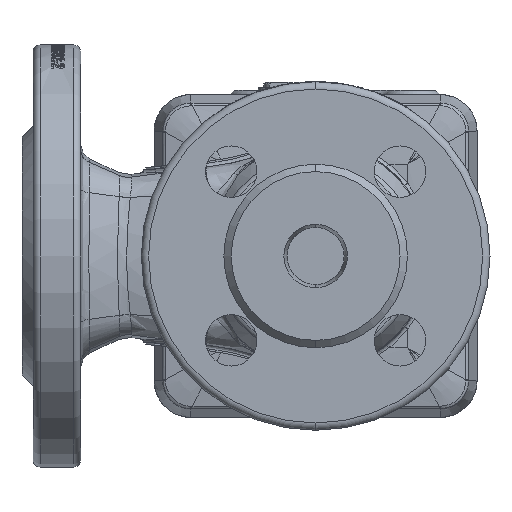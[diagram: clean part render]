
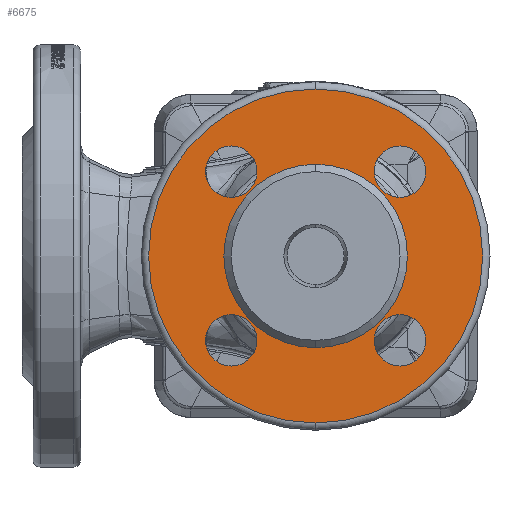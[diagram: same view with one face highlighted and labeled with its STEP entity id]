
A CAD part, front view. The second image highlights one B-rep face of the part: STEP entity #6675.
In plain terms, the highlighted planar face has unit normal (0, -1, 0).
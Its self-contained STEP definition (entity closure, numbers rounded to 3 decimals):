
#1206 = AXIS2_PLACEMENT_3D ( 'NONE', #132358, #104568, #144733 ) ;
#1294 = DIRECTION ( 'NONE',  ( 0., 1., 0. ) ) ;
#1332 = DIRECTION ( 'NONE',  ( 0., -1., 0. ) ) ;
#5045 = CARTESIAN_POINT ( 'NONE',  ( -22.981, -88., -29.981 ) ) ;
#5450 = ORIENTED_EDGE ( 'NONE', *, *, #137319, .F. ) ;
#6382 = AXIS2_PLACEMENT_3D ( 'NONE', #33477, #113973, #87328 ) ;
#6675 = ADVANCED_FACE ( 'NONE', ( #75595, #156120, #35444, #145577, #92635, #139127 ), #129171, .T. ) ;
#7854 = CIRCLE ( 'NONE', #53896, 7. ) ;
#8524 = EDGE_LOOP ( 'NONE', ( #141320, #78700 ) ) ;
#9649 = CARTESIAN_POINT ( 'NONE',  ( 0., -88., 45.5 ) ) ;
#14560 = VERTEX_POINT ( 'NONE', #66139 ) ;
#20714 = CARTESIAN_POINT ( 'NONE',  ( -22.981, -88., 15.981 ) ) ;
#20806 = AXIS2_PLACEMENT_3D ( 'NONE', #102860, #116463, #130056 ) ;
#21139 = AXIS2_PLACEMENT_3D ( 'NONE', #174854, #134635, #52398 ) ;
#21155 = AXIS2_PLACEMENT_3D ( 'NONE', #82396, #1294, #96065 ) ;
#21321 = ORIENTED_EDGE ( 'NONE', *, *, #67745, .F. ) ;
#22969 = ORIENTED_EDGE ( 'NONE', *, *, #44808, .F. ) ;
#25202 = AXIS2_PLACEMENT_3D ( 'NONE', #42004, #109516, #53295 ) ;
#26083 = ORIENTED_EDGE ( 'NONE', *, *, #104723, .F. ) ;
#32776 = ORIENTED_EDGE ( 'NONE', *, *, #152861, .F. ) ;
#33477 = CARTESIAN_POINT ( 'NONE',  ( 22.981, -88., -22.981 ) ) ;
#34671 = VERTEX_POINT ( 'NONE', #9649 ) ;
#35444 = FACE_BOUND ( 'NONE', #47756, .T. ) ;
#40132 = EDGE_CURVE ( 'NONE', #120887, #34671, #47275, .T. ) ;
#40500 = CARTESIAN_POINT ( 'NONE',  ( -22.981, -88., 29.981 ) ) ;
#40614 = EDGE_CURVE ( 'NONE', #151181, #116799, #144512, .T. ) ;
#41532 = DIRECTION ( 'NONE',  ( 0., 0., -1. ) ) ;
#42004 = CARTESIAN_POINT ( 'NONE',  ( 0., -88., 0. ) ) ;
#44808 = EDGE_CURVE ( 'NONE', #141423, #112347, #171166, .T. ) ;
#47275 = CIRCLE ( 'NONE', #102910, 45.5 ) ;
#47502 = DIRECTION ( 'NONE',  ( 0., -1., 0. ) ) ;
#47756 = EDGE_LOOP ( 'NONE', ( #171037, #21321 ) ) ;
#49872 = ORIENTED_EDGE ( 'NONE', *, *, #70963, .F. ) ;
#50731 = CARTESIAN_POINT ( 'NONE',  ( 0., -88., -45.5 ) ) ;
#52398 = DIRECTION ( 'NONE',  ( 0., 0., -1. ) ) ;
#53117 = ORIENTED_EDGE ( 'NONE', *, *, #40132, .F. ) ;
#53295 = DIRECTION ( 'NONE',  ( 0., 0., 1. ) ) ;
#53896 = AXIS2_PLACEMENT_3D ( 'NONE', #75731, #170468, #103057 ) ;
#54291 = CIRCLE ( 'NONE', #25202, 45.5 ) ;
#55566 = EDGE_LOOP ( 'NONE', ( #49872, #112822 ) ) ;
#62901 = DIRECTION ( 'NONE',  ( 0., 0., -1. ) ) ;
#63492 = CARTESIAN_POINT ( 'NONE',  ( -22.981, -88., -22.981 ) ) ;
#66139 = CARTESIAN_POINT ( 'NONE',  ( 22.981, -88., 29.981 ) ) ;
#67259 = CIRCLE ( 'NONE', #20806, 7. ) ;
#67745 = EDGE_CURVE ( 'NONE', #14560, #151230, #135200, .T. ) ;
#70882 = CARTESIAN_POINT ( 'NONE',  ( -22.981, -88., -15.981 ) ) ;
#70963 = EDGE_CURVE ( 'NONE', #160530, #109703, #150237, .T. ) ;
#73885 = CIRCLE ( 'NONE', #154991, 7. ) ;
#75595 = FACE_BOUND ( 'NONE', #55566, .T. ) ;
#75731 = CARTESIAN_POINT ( 'NONE',  ( 22.981, -88., 22.981 ) ) ;
#76782 = CIRCLE ( 'NONE', #1206, 25. ) ;
#77511 = EDGE_LOOP ( 'NONE', ( #131909, #53117 ) ) ;
#77714 = AXIS2_PLACEMENT_3D ( 'NONE', #126842, #47502, #113793 ) ;
#78700 = ORIENTED_EDGE ( 'NONE', *, *, #82874, .T. ) ;
#78730 = CARTESIAN_POINT ( 'NONE',  ( -22.981, -88., 22.981 ) ) ;
#79469 = CARTESIAN_POINT ( 'NONE',  ( -22.981, -88., 22.981 ) ) ;
#81162 = CARTESIAN_POINT ( 'NONE',  ( 22.981, -88., -15.981 ) ) ;
#82323 = CIRCLE ( 'NONE', #144372, 7. ) ;
#82396 = CARTESIAN_POINT ( 'NONE',  ( 0., -88., 0. ) ) ;
#82874 = EDGE_CURVE ( 'NONE', #116799, #151181, #76782, .T. ) ;
#87328 = DIRECTION ( 'NONE',  ( 0., 0., -1. ) ) ;
#92635 = FACE_BOUND ( 'NONE', #8524, .T. ) ;
#96065 = DIRECTION ( 'NONE',  ( 0., 0., 1. ) ) ;
#96711 = CARTESIAN_POINT ( 'NONE',  ( 0., -88., 0. ) ) ;
#98751 = EDGE_CURVE ( 'NONE', #151230, #14560, #7854, .T. ) ;
#101138 = CARTESIAN_POINT ( 'NONE',  ( 22.981, -88., -29.981 ) ) ;
#102860 = CARTESIAN_POINT ( 'NONE',  ( -22.981, -88., -22.981 ) ) ;
#102910 = AXIS2_PLACEMENT_3D ( 'NONE', #96711, #151711, #110926 ) ;
#103057 = DIRECTION ( 'NONE',  ( 0., 0., -1. ) ) ;
#104568 = DIRECTION ( 'NONE',  ( 0., 1., 0. ) ) ;
#104723 = EDGE_CURVE ( 'NONE', #112347, #141423, #82323, .T. ) ;
#108553 = AXIS2_PLACEMENT_3D ( 'NONE', #79469, #174781, #133979 ) ;
#109156 = CARTESIAN_POINT ( 'NONE',  ( 22.981, -88., -22.981 ) ) ;
#109516 = DIRECTION ( 'NONE',  ( 0., 1., 0. ) ) ;
#109703 = VERTEX_POINT ( 'NONE', #81162 ) ;
#109730 = DIRECTION ( 'NONE',  ( 0., 0., -1. ) ) ;
#110926 = DIRECTION ( 'NONE',  ( 0., 0., 1. ) ) ;
#112347 = VERTEX_POINT ( 'NONE', #20714 ) ;
#112822 = ORIENTED_EDGE ( 'NONE', *, *, #141351, .F. ) ;
#113793 = DIRECTION ( 'NONE',  ( 0., 0., -1. ) ) ;
#113973 = DIRECTION ( 'NONE',  ( 0., -1., 0. ) ) ;
#116463 = DIRECTION ( 'NONE',  ( 0., -1., 0. ) ) ;
#116799 = VERTEX_POINT ( 'NONE', #122037 ) ;
#118279 = CARTESIAN_POINT ( 'NONE',  ( 22.981, -88., 15.981 ) ) ;
#120887 = VERTEX_POINT ( 'NONE', #50731 ) ;
#122037 = CARTESIAN_POINT ( 'NONE',  ( 0., -88., -25. ) ) ;
#126216 = AXIS2_PLACEMENT_3D ( 'NONE', #109156, #1332, #109730 ) ;
#126630 = CARTESIAN_POINT ( 'NONE',  ( 0., -88., 25. ) ) ;
#126842 = CARTESIAN_POINT ( 'NONE',  ( -25., -88., 0. ) ) ;
#129171 = PLANE ( 'NONE',  #77714 ) ;
#130056 = DIRECTION ( 'NONE',  ( 0., 0., -1. ) ) ;
#131009 = DIRECTION ( 'NONE',  ( 0., -1., 0. ) ) ;
#131909 = ORIENTED_EDGE ( 'NONE', *, *, #160375, .F. ) ;
#132358 = CARTESIAN_POINT ( 'NONE',  ( 0., -88., 0. ) ) ;
#133979 = DIRECTION ( 'NONE',  ( 0., 0., -1. ) ) ;
#134635 = DIRECTION ( 'NONE',  ( 0., -1., 0. ) ) ;
#135200 = CIRCLE ( 'NONE', #21139, 7. ) ;
#137319 = EDGE_CURVE ( 'NONE', #150291, #175634, #73885, .T. ) ;
#139127 = FACE_OUTER_BOUND ( 'NONE', #77511, .T. ) ;
#141320 = ORIENTED_EDGE ( 'NONE', *, *, #40614, .T. ) ;
#141351 = EDGE_CURVE ( 'NONE', #109703, #160530, #144255, .T. ) ;
#141423 = VERTEX_POINT ( 'NONE', #40500 ) ;
#143230 = EDGE_LOOP ( 'NONE', ( #5450, #32776 ) ) ;
#144255 = CIRCLE ( 'NONE', #126216, 7. ) ;
#144372 = AXIS2_PLACEMENT_3D ( 'NONE', #78730, #146814, #41532 ) ;
#144512 = CIRCLE ( 'NONE', #21155, 25. ) ;
#144733 = DIRECTION ( 'NONE',  ( 0., 0., 1. ) ) ;
#145577 = FACE_BOUND ( 'NONE', #170130, .T. ) ;
#146814 = DIRECTION ( 'NONE',  ( 0., -1., 0. ) ) ;
#150237 = CIRCLE ( 'NONE', #6382, 7. ) ;
#150291 = VERTEX_POINT ( 'NONE', #5045 ) ;
#151181 = VERTEX_POINT ( 'NONE', #126630 ) ;
#151230 = VERTEX_POINT ( 'NONE', #118279 ) ;
#151711 = DIRECTION ( 'NONE',  ( 0., 1., 0. ) ) ;
#152861 = EDGE_CURVE ( 'NONE', #175634, #150291, #67259, .T. ) ;
#154991 = AXIS2_PLACEMENT_3D ( 'NONE', #63492, #131009, #62901 ) ;
#156120 = FACE_BOUND ( 'NONE', #143230, .T. ) ;
#160375 = EDGE_CURVE ( 'NONE', #34671, #120887, #54291, .T. ) ;
#160530 = VERTEX_POINT ( 'NONE', #101138 ) ;
#170130 = EDGE_LOOP ( 'NONE', ( #26083, #22969 ) ) ;
#170468 = DIRECTION ( 'NONE',  ( 0., -1., 0. ) ) ;
#171037 = ORIENTED_EDGE ( 'NONE', *, *, #98751, .F. ) ;
#171166 = CIRCLE ( 'NONE', #108553, 7. ) ;
#174781 = DIRECTION ( 'NONE',  ( 0., -1., 0. ) ) ;
#174854 = CARTESIAN_POINT ( 'NONE',  ( 22.981, -88., 22.981 ) ) ;
#175634 = VERTEX_POINT ( 'NONE', #70882 ) ;
